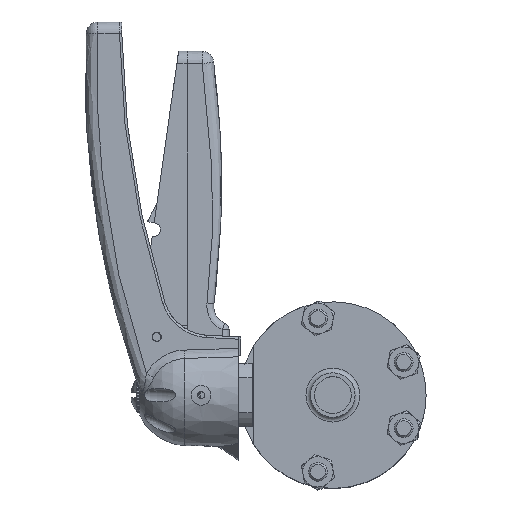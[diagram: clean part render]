
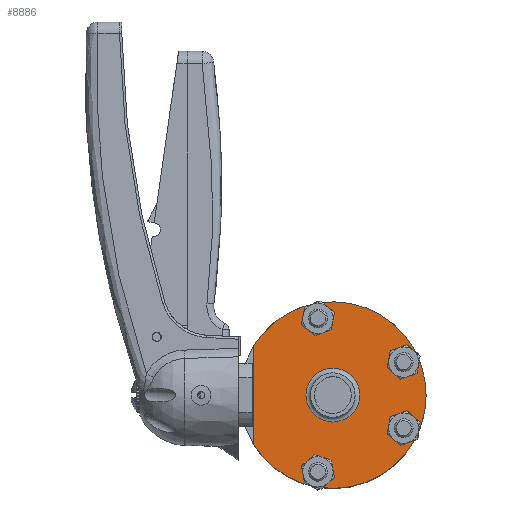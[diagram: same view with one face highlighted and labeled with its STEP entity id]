
A CAD part, top view. The second image highlights one B-rep face of the part: STEP entity #8886.
In plain terms, the highlighted planar face has unit normal (0, 0, 1) as drawn and (1, 0, 0) by its records, which use the part's own axes.
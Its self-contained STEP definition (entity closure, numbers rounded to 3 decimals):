
#901=FACE_BOUND('',#2233,.T.);
#902=FACE_BOUND('',#2234,.T.);
#903=FACE_BOUND('',#2235,.T.);
#904=FACE_BOUND('',#2236,.T.);
#905=FACE_BOUND('',#2237,.T.);
#1118=PLANE('',#9836);
#1701=FACE_OUTER_BOUND('',#2232,.T.);
#2232=EDGE_LOOP('',(#8320,#8321));
#2233=EDGE_LOOP('',(#8322,#8323));
#2234=EDGE_LOOP('',(#8324,#8325));
#2235=EDGE_LOOP('',(#8326,#8327));
#2236=EDGE_LOOP('',(#8328,#8329));
#2237=EDGE_LOOP('',(#8330,#8331));
#2813=LINE('',#24386,#3393);
#3393=VECTOR('',#11959,10.);
#3734=CIRCLE('',#9816,40.);
#3741=CIRCLE('',#9825,4.25);
#3742=CIRCLE('',#9826,4.25);
#3743=CIRCLE('',#9828,4.25);
#3744=CIRCLE('',#9829,4.25);
#3745=CIRCLE('',#9831,4.25);
#3746=CIRCLE('',#9832,4.25);
#3747=CIRCLE('',#9834,4.25);
#3748=CIRCLE('',#9835,4.25);
#3749=CIRCLE('',#9837,11.525);
#3750=CIRCLE('',#9838,11.525);
#4544=VERTEX_POINT('',#24384);
#4545=VERTEX_POINT('',#24385);
#4554=VERTEX_POINT('',#24409);
#4555=VERTEX_POINT('',#24410);
#4556=VERTEX_POINT('',#24415);
#4557=VERTEX_POINT('',#24416);
#4558=VERTEX_POINT('',#24421);
#4559=VERTEX_POINT('',#24422);
#4560=VERTEX_POINT('',#24427);
#4561=VERTEX_POINT('',#24428);
#4562=VERTEX_POINT('',#24433);
#4563=VERTEX_POINT('',#24434);
#5797=EDGE_CURVE('',#4544,#4545,#2813,.T.);
#5802=EDGE_CURVE('',#4545,#4544,#3734,.T.);
#5809=EDGE_CURVE('',#4554,#4555,#3741,.T.);
#5810=EDGE_CURVE('',#4555,#4554,#3742,.T.);
#5812=EDGE_CURVE('',#4556,#4557,#3743,.T.);
#5813=EDGE_CURVE('',#4557,#4556,#3744,.T.);
#5815=EDGE_CURVE('',#4558,#4559,#3745,.T.);
#5816=EDGE_CURVE('',#4559,#4558,#3746,.T.);
#5818=EDGE_CURVE('',#4560,#4561,#3747,.T.);
#5819=EDGE_CURVE('',#4561,#4560,#3748,.T.);
#5821=EDGE_CURVE('',#4562,#4563,#3749,.T.);
#5822=EDGE_CURVE('',#4563,#4562,#3750,.T.);
#8320=ORIENTED_EDGE('',*,*,#5797,.T.);
#8321=ORIENTED_EDGE('',*,*,#5802,.T.);
#8322=ORIENTED_EDGE('',*,*,#5809,.T.);
#8323=ORIENTED_EDGE('',*,*,#5810,.T.);
#8324=ORIENTED_EDGE('',*,*,#5812,.T.);
#8325=ORIENTED_EDGE('',*,*,#5813,.T.);
#8326=ORIENTED_EDGE('',*,*,#5815,.T.);
#8327=ORIENTED_EDGE('',*,*,#5816,.T.);
#8328=ORIENTED_EDGE('',*,*,#5818,.T.);
#8329=ORIENTED_EDGE('',*,*,#5819,.T.);
#8330=ORIENTED_EDGE('',*,*,#5821,.F.);
#8331=ORIENTED_EDGE('',*,*,#5822,.F.);
#8886=ADVANCED_FACE('',(#1701,#901,#902,#903,#904,#905),#1118,.T.);
#9816=AXIS2_PLACEMENT_3D('',#24394,#11967,#11968);
#9825=AXIS2_PLACEMENT_3D('',#24411,#11985,#11986);
#9826=AXIS2_PLACEMENT_3D('',#24412,#11987,#11988);
#9828=AXIS2_PLACEMENT_3D('',#24417,#11992,#11993);
#9829=AXIS2_PLACEMENT_3D('',#24418,#11994,#11995);
#9831=AXIS2_PLACEMENT_3D('',#24423,#11999,#12000);
#9832=AXIS2_PLACEMENT_3D('',#24424,#12001,#12002);
#9834=AXIS2_PLACEMENT_3D('',#24429,#12006,#12007);
#9835=AXIS2_PLACEMENT_3D('',#24430,#12008,#12009);
#9836=AXIS2_PLACEMENT_3D('',#24432,#12011,#12012);
#9837=AXIS2_PLACEMENT_3D('',#24435,#12013,#12014);
#9838=AXIS2_PLACEMENT_3D('',#24436,#12015,#12016);
#11959=DIRECTION('',(0.,0.,1.));
#11967=DIRECTION('center_axis',(1.,0.,0.));
#11968=DIRECTION('ref_axis',(0.,0.,-1.));
#11985=DIRECTION('center_axis',(-1.,0.,0.));
#11986=DIRECTION('ref_axis',(0.,0.,1.));
#11987=DIRECTION('center_axis',(-1.,0.,0.));
#11988=DIRECTION('ref_axis',(0.,0.,1.));
#11992=DIRECTION('center_axis',(-1.,0.,0.));
#11993=DIRECTION('ref_axis',(0.,0.,1.));
#11994=DIRECTION('center_axis',(-1.,0.,0.));
#11995=DIRECTION('ref_axis',(0.,0.,1.));
#11999=DIRECTION('center_axis',(-1.,0.,0.));
#12000=DIRECTION('ref_axis',(0.,0.,-1.));
#12001=DIRECTION('center_axis',(-1.,0.,0.));
#12002=DIRECTION('ref_axis',(0.,0.,-1.));
#12006=DIRECTION('center_axis',(-1.,0.,0.));
#12007=DIRECTION('ref_axis',(0.,0.,-1.));
#12008=DIRECTION('center_axis',(-1.,0.,0.));
#12009=DIRECTION('ref_axis',(0.,0.,-1.));
#12011=DIRECTION('center_axis',(1.,0.,0.));
#12012=DIRECTION('ref_axis',(0.,0.,-1.));
#12013=DIRECTION('center_axis',(1.,0.,0.));
#12014=DIRECTION('ref_axis',(0.,0.,-1.));
#12015=DIRECTION('center_axis',(1.,0.,0.));
#12016=DIRECTION('ref_axis',(0.,0.,-1.));
#24384=CARTESIAN_POINT('',(10.,34.,-21.071));
#24385=CARTESIAN_POINT('',(10.,34.,21.071));
#24386=CARTESIAN_POINT('',(10.,34.,-10.536));
#24394=CARTESIAN_POINT('Origin',(10.,0.,0.));
#24409=CARTESIAN_POINT('',(10.,6.392,37.135));
#24410=CARTESIAN_POINT('',(10.,6.392,28.635));
#24411=CARTESIAN_POINT('Origin',(10.,6.392,32.885));
#24412=CARTESIAN_POINT('Origin',(10.,6.392,32.885));
#24415=CARTESIAN_POINT('',(10.,-30.361,18.408));
#24416=CARTESIAN_POINT('',(10.,-30.361,9.908));
#24417=CARTESIAN_POINT('Origin',(10.,-30.361,14.158));
#24418=CARTESIAN_POINT('Origin',(10.,-30.361,14.158));
#24421=CARTESIAN_POINT('',(10.,6.392,-37.135));
#24422=CARTESIAN_POINT('',(10.,6.392,-28.635));
#24423=CARTESIAN_POINT('Origin',(10.,6.392,-32.885));
#24424=CARTESIAN_POINT('Origin',(10.,6.392,-32.885));
#24427=CARTESIAN_POINT('',(10.,-30.361,-18.408));
#24428=CARTESIAN_POINT('',(10.,-30.361,-9.908));
#24429=CARTESIAN_POINT('Origin',(10.,-30.361,-14.158));
#24430=CARTESIAN_POINT('Origin',(10.,-30.361,-14.158));
#24432=CARTESIAN_POINT('Origin',(10.,11.525,0.));
#24433=CARTESIAN_POINT('',(10.,11.525,0.));
#24434=CARTESIAN_POINT('',(10.,0.,11.525));
#24435=CARTESIAN_POINT('Origin',(10.,0.,0.));
#24436=CARTESIAN_POINT('Origin',(10.,0.,0.));
